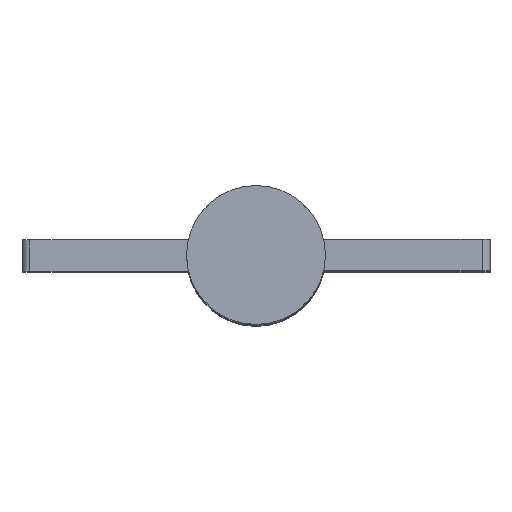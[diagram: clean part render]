
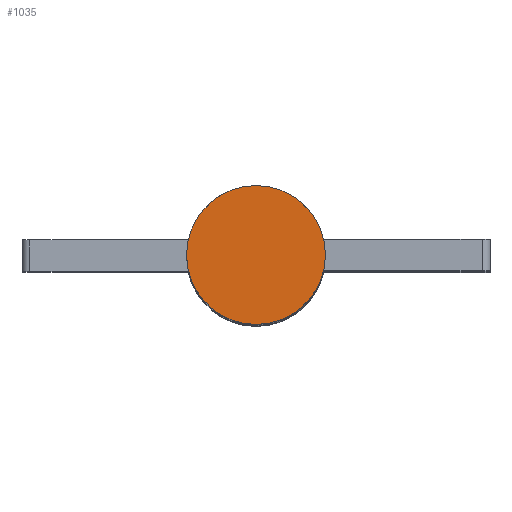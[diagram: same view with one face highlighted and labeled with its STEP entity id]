
A CAD part, top view. The second image highlights one B-rep face of the part: STEP entity #1035.
In plain terms, the highlighted planar face has unit normal (0, 0, 1).
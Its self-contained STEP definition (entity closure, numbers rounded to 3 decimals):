
#113 = CIRCLE ( 'NONE', #889, 8.75 ) ;
#235 = CARTESIAN_POINT ( 'NONE',  ( 0., 0., 0. ) ) ;
#260 = ORIENTED_EDGE ( 'NONE', *, *, #308, .T. ) ;
#308 = EDGE_CURVE ( 'NONE', #855, #597, #113, .T. ) ;
#350 = DIRECTION ( 'NONE',  ( 1., 0., 0. ) ) ;
#476 = CIRCLE ( 'NONE', #1242, 8.75 ) ;
#597 = VERTEX_POINT ( 'NONE', #1001 ) ;
#695 = DIRECTION ( 'NONE',  ( 0., 0., 1. ) ) ;
#786 = DIRECTION ( 'NONE',  ( 0., 0., 1. ) ) ;
#800 = CARTESIAN_POINT ( 'NONE',  ( 0., 0., 0. ) ) ;
#855 = VERTEX_POINT ( 'NONE', #1024 ) ;
#860 = ORIENTED_EDGE ( 'NONE', *, *, #1345, .T. ) ;
#889 = AXIS2_PLACEMENT_3D ( 'NONE', #235, #786, #1194 ) ;
#996 = DIRECTION ( 'NONE',  ( 0., 0., 1. ) ) ;
#1001 = CARTESIAN_POINT ( 'NONE',  ( 8.75, 0., 0. ) ) ;
#1018 = FACE_OUTER_BOUND ( 'NONE', #1248, .T. ) ;
#1024 = CARTESIAN_POINT ( 'NONE',  ( -8.75, 0., 0. ) ) ;
#1035 = ADVANCED_FACE ( 'NONE', ( #1018 ), #1135, .T. ) ;
#1108 = DIRECTION ( 'NONE',  ( 1., 0., 0. ) ) ;
#1135 = PLANE ( 'NONE',  #1219 ) ;
#1194 = DIRECTION ( 'NONE',  ( 1., 0., 0. ) ) ;
#1196 = CARTESIAN_POINT ( 'NONE',  ( 0., 0., 0. ) ) ;
#1219 = AXIS2_PLACEMENT_3D ( 'NONE', #800, #695, #1108 ) ;
#1242 = AXIS2_PLACEMENT_3D ( 'NONE', #1196, #996, #350 ) ;
#1248 = EDGE_LOOP ( 'NONE', ( #860, #260 ) ) ;
#1345 = EDGE_CURVE ( 'NONE', #597, #855, #476, .T. ) ;
